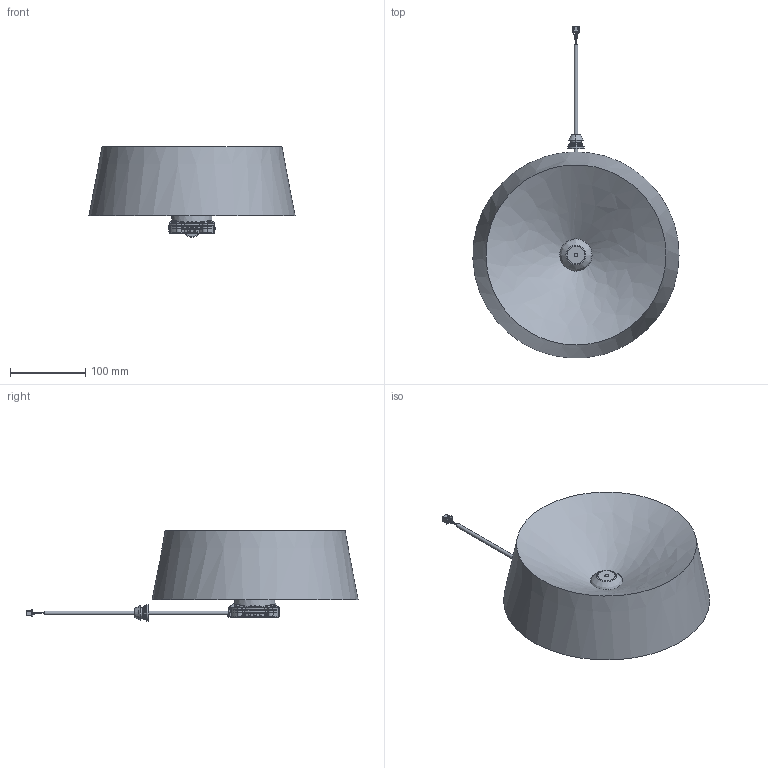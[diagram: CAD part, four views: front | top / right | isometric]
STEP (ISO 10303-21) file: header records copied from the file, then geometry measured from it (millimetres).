
FILE_DESCRIPTION(/* description */ (''),/* implementation_level */ '2;1');
FILE_NAME(/* name */ 'JT32-整机模型-负9°FOV.stp',/* time_stamp */ '2026-03-06T21:35:40+08:00',/* author */ (''),/* organization */ (''),/* preprocessor_version */ 'ST-DEVELOPER v16.7',/* originating_system */ 'SIEMENS PLM Software NX 1934',/* authorisation */ '');
FILE_SCHEMA (('AUTOMOTIVE_DESIGN { 1 0 10303 214 3 1 1 1 }'));
Products named in the file (1): lipe4F7CFB72hb1g
Bounding box: 274.57 x 442.18 x 120.45 mm (x, y, z)
Volume: 3228444.3 mm3; surface area: 229540.1 mm2
Topology: 27 solids, 27 shells, 2211 faces, 5266 edges, 3078 vertices
Faces by surface type: bspline 704, plane 552, cylinder 512, torus 227, cone 168, extrusion 24, sphere 21, revolution 3
Full cylindrical faces by diameter (mm): 0.3 x8, 1.86 x1, 2.05 x4, 2.5 x5, 4.34 x4, 5 x2, 5.5 x1, 6 x4, 9.017 x1, 23 x1
Entity records: 84603 total; most frequent: CARTESIAN_POINT 33810, ORIENTED_EDGE 10090, DIRECTION 8638, EDGE_CURVE 5045, AXIS2_PLACEMENT_3D 3542, VERTEX_POINT 3051, EDGE_LOOP 2381, ADVANCED_FACE 2211
